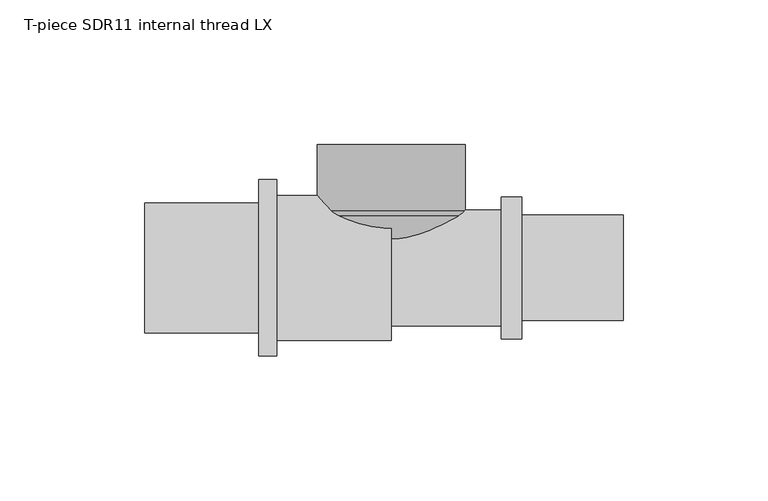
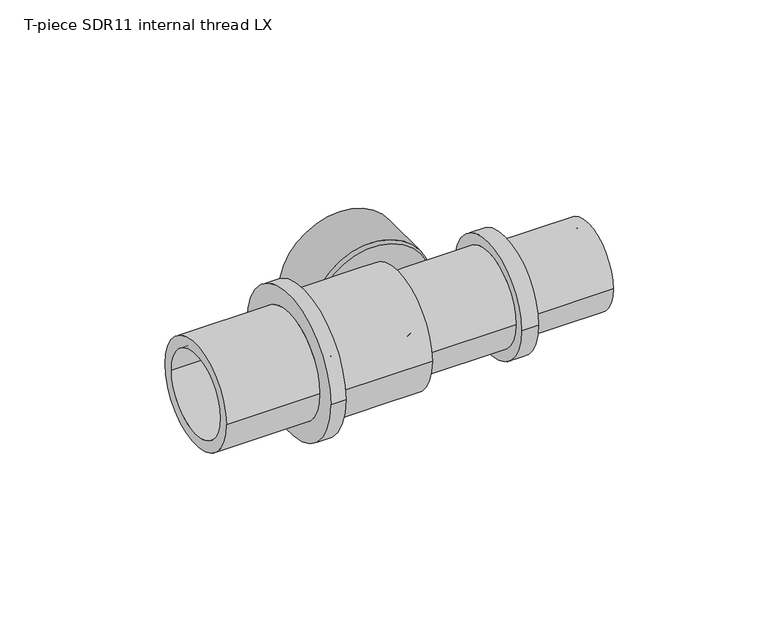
"""IFC4 building model written with IfcOpenShell, lengths in millimetres: pipe fitting geometry, T-piece SDR11 internal thread LX : T-piece LX SDR11 internal LX."""

from ifc_helpers import new_model, si_unit, point, frame, origin, place, context, project, spatial, polyline, circle_curve, ellipse_curve, trimmed, source, transform, mapped, element, save
from ifc_brep_helpers import plane_surface, cylinder_surface, revolved_surface, advanced_brep


def t_piece_sdr11_internal_thread_lx_c544266c(model_context):
    return source(origin(), model_context, "Body", "AdvancedBrep", [
        advanced_brep(
        [(19.95, 20.95, 0.0), (-19.95, 20.95, 0.0), (-19.95, 42.5, 0.0), (19.95, 42.5, 0.0), (0.5, 1.5, 0.0), (-0.5, 1.5, 0.0), (24.7683856, 17.9195003, 0.0), (-24.7683856, 17.9195003, 0.0), (-8.3488853, 1.5, 0.0), (8.3488853, 1.5, 0.0), (25.5, 19.6857737, 0.0), (-25.5, 19.6857737, 0.0), (25.5, 42.5, 0.0), (-25.5, 42.5, 0.0)],
        [
            (0, 1, circle_curve(frame((0.0, 20.95, 0.0), z_axis=(0.0, -1.0, 0.0), x_axis=(-1.0, 0.0, 0.0)), 19.95)),
            (1, 2),
            (2, 3, circle_curve(frame((0.0, 42.5, 0.0), z_axis=(0.0, 1.0, 0.0), x_axis=(-1.0, 0.0, 0.0)), 19.95)),
            (3, 0),
            (4, 5, circle_curve(frame((0.0, 1.5, 0.0), z_axis=(0.0, -1.0, 0.0), x_axis=(-1.0, 0.0, 0.0)), 0.5)),
            (5, 1),
            (0, 4),
            (6, 7, circle_curve(frame((0.0, 17.9195003, 0.0), z_axis=(0.0, -1.0, 0.0), x_axis=(-1.0, 0.0, 0.0)), 24.7683856)),
            (7, 8),
            (8, 9, circle_curve(frame((0.0, 1.5, 0.0), z_axis=(0.0, 1.0, 0.0), x_axis=(-1.0, 0.0, 0.0)), 8.3488853)),
            (9, 6),
            (10, 11, circle_curve(frame((0.0, 19.6857737, 0.0), z_axis=(0.0, -1.0, 0.0), x_axis=(-1.0, 0.0, 0.0)), 25.5)),
            (11, 7, circle_curve(frame((-19.95, 20.95, 0.0), z_axis=(0.0, 0.0, 1.0), x_axis=(0.0, 1.0, 0.0)), 5.6921673)),
            (6, 10, circle_curve(frame((19.95, 20.95, 0.0), z_axis=(0.0, 0.0, 1.0), x_axis=(0.0, 1.0, 0.0)), 5.6921673)),
            (12, 13, circle_curve(frame((0.0, 42.5, 0.0), z_axis=(0.0, -1.0, 0.0), x_axis=(-1.0, 0.0, 0.0)), 25.5)),
            (13, 11),
            (10, 12),
            (12, 13, circle_curve(frame((0.0, 42.5, 0.0), z_axis=(0.0, 1.0, 0.0), x_axis=(1.0, 0.0, 0.0)), 25.5)),
            (2, 3, circle_curve(frame((0.0, 42.5, 0.0), z_axis=(0.0, -1.0, 0.0), x_axis=(1.0, 0.0, 0.0)), 19.95)),
            (1, 0, circle_curve(frame((0.0, 20.95, 0.0), z_axis=(0.0, -1.0, 0.0), x_axis=(1.0, 0.0, 0.0)), 19.95)),
            (5, 4, circle_curve(frame((0.0, 1.5, 0.0), z_axis=(0.0, -1.0, 0.0), x_axis=(1.0, 0.0, 0.0)), 0.5)),
            (8, 9, circle_curve(frame((0.0, 1.5, 0.0), z_axis=(0.0, -1.0, 0.0), x_axis=(1.0, 0.0, 0.0)), 8.3488853)),
            (7, 6, circle_curve(frame((0.0, 17.9195003, 0.0), z_axis=(0.0, -1.0, 0.0), x_axis=(1.0, 0.0, 0.0)), 24.7683856)),
            (11, 10, circle_curve(frame((0.0, 19.6857737, 0.0), z_axis=(0.0, -1.0, 0.0), x_axis=(1.0, 0.0, 0.0)), 25.5)),
        ],
        [
            revolved_surface(polyline([(-19.95, 42.5, 0.0), (-19.95, 20.95, 0.0)]), (0.0, 1.5, 0.0), (0.0, 1.0, 0.0)),
            revolved_surface(polyline([(-19.95, 20.95, 0.0), (-0.5, 1.5, 0.0)]), (0.0, 1.5, 0.0), (0.0, 1.0, 0.0)),
            revolved_surface(polyline([(-8.3488853, 1.5, 0.0), (-24.7683856, 17.9195003, 0.0)]), (0.0, 1.5, 0.0), (0.0, 1.0, 0.0)),
            revolved_surface(trimmed(ellipse_curve(frame((-19.95, 20.95, 0.0), z_axis=(0.0, 0.0, -1.0), x_axis=(0.0, 1.0, 0.0)), 5.6921673, 5.6921673), [point((-24.7683856, 17.9195003, 0.0))], [point((-25.5, 19.6857737, 0.0))], True, "CARTESIAN"), (0.0, 1.5, 0.0), (0.0, 1.0, 0.0)),
            cylinder_surface(frame((0.0, 1.5, 0.0), z_axis=(0.0, 1.0, 0.0), x_axis=(-1.0, 0.0, 0.0)), 25.5),
            plane_surface(frame((0.0, 42.5, 0.0), z_axis=(0.0, 1.0, 0.0), x_axis=(1.0, 0.0, 0.0))),
            revolved_surface(polyline([(19.95, 42.5, 0.0), (19.95, 20.95, 0.0)]), (0.0, 1.5, 0.0), (0.0, 1.0, 0.0)),
            revolved_surface(polyline([(19.95, 20.95, 0.0), (0.5, 1.5, 0.0)]), (0.0, 1.5, 0.0), (0.0, 1.0, 0.0)),
            plane_surface(frame((0.0, 1.5, 0.0), z_axis=(0.0, -1.0, 0.0), x_axis=(1.0, 0.0, 0.0))),
            revolved_surface(polyline([(8.3488853, 1.5, 0.0), (24.7683856, 17.9195003, 0.0)]), (0.0, 1.5, 0.0), (0.0, 1.0, 0.0)),
            revolved_surface(trimmed(ellipse_curve(frame((19.95, 20.95, 0.0), z_axis=(0.0, 0.0, 1.0), x_axis=(0.0, 1.0, 0.0)), 5.6921673, 5.6921673), [point((24.7683856, 17.9195003, 0.0))], [point((25.5, 19.6857737, 0.0))], True, "CARTESIAN"), (0.0, 1.5, 0.0), (0.0, 1.0, 0.0)),
            cylinder_surface(frame((0.0, 1.5, 0.0), z_axis=(0.0, 1.0, 0.0), x_axis=(1.0, 0.0, 0.0)), 25.5),
        ],
        [
            (0, [[1, 2, 3, 4]]),
            (1, [[5, 6, -1, 7]]),
            (2, [[8, 9, 10, 11]]),
            (3, [[12, 13, -8, 14]]),
            (4, [[15, 16, -12, 17]]),
            (5, [[18, -15], [19, -3]]),
            (6, [[20, -4, -19, -2]]),
            (7, [[21, -7, -20, -6]]),
            (8, [[22, -10], [-21, -5]]),
            (9, [[23, -11, -22, -9]]),
            (10, [[24, -14, -23, -13]]),
            (11, [[-18, -17, -24, -16]]),
        ],
    ),
        advanced_brep(
        [(45.0, 24.5, 0.0), (45.0, -24.5, 0.0), (38.0, -24.5, 0.0), (38.0, 24.5, 0.0), (80.0, 18.2, 0.0), (80.0, -18.2, 0.0), (45.0, -18.2, 0.0), (45.0, 18.2, 0.0), (0.0, 13.6, 0.0), (0.0, -13.6, 0.0), (80.0, -13.6, 0.0), (80.0, 13.6, 0.0), (38.0, 20.0, 0.0), (38.0, -20.0, 0.0), (0.0, -20.0, 0.0), (0.0, 20.0, 0.0)],
        [
            (0, 1, circle_curve(frame((45.0, 0.0, 0.0), z_axis=(-1.0, 0.0, 0.0), x_axis=(0.0, -1.0, 0.0)), 24.5)),
            (1, 2),
            (2, 3, circle_curve(frame((38.0, 0.0, 0.0), z_axis=(1.0, 0.0, 0.0), x_axis=(0.0, -1.0, 0.0)), 24.5)),
            (3, 0),
            (4, 5, circle_curve(frame((80.0, 0.0, 0.0), z_axis=(-1.0, 0.0, 0.0), x_axis=(0.0, -1.0, 0.0)), 18.2)),
            (5, 6),
            (6, 7, circle_curve(frame((45.0, 0.0, 0.0), z_axis=(1.0, 0.0, 0.0), x_axis=(0.0, -1.0, 0.0)), 18.2)),
            (7, 4),
            (8, 9, circle_curve(frame((0.0, 0.0, 0.0), z_axis=(-1.0, 0.0, 0.0), x_axis=(0.0, -1.0, 0.0)), 13.6)),
            (9, 10),
            (10, 11, circle_curve(frame((80.0, 0.0, 0.0), z_axis=(1.0, 0.0, 0.0), x_axis=(0.0, -1.0, 0.0)), 13.6)),
            (11, 8),
            (12, 13, circle_curve(frame((38.0, 0.0, 0.0), z_axis=(-1.0, 0.0, 0.0), x_axis=(0.0, -1.0, 0.0)), 20.0)),
            (13, 14),
            (14, 15, circle_curve(frame((0.0, 0.0, 0.0), z_axis=(1.0, 0.0, 0.0), x_axis=(0.0, -1.0, 0.0)), 20.0)),
            (15, 12),
            (1, 0, circle_curve(frame((45.0, 0.0, 0.0), z_axis=(-1.0, 0.0, 0.0), x_axis=(0.0, 1.0, 0.0)), 24.5)),
            (3, 2, circle_curve(frame((38.0, 0.0, 0.0), z_axis=(1.0, 0.0, 0.0), x_axis=(0.0, 1.0, 0.0)), 24.5)),
            (6, 7, circle_curve(frame((45.0, 0.0, 0.0), z_axis=(-1.0, 0.0, 0.0), x_axis=(0.0, 1.0, 0.0)), 18.2)),
            (5, 4, circle_curve(frame((80.0, 0.0, 0.0), z_axis=(-1.0, 0.0, 0.0), x_axis=(0.0, 1.0, 0.0)), 18.2)),
            (10, 11, circle_curve(frame((80.0, 0.0, 0.0), z_axis=(-1.0, 0.0, 0.0), x_axis=(0.0, 1.0, 0.0)), 13.6)),
            (9, 8, circle_curve(frame((0.0, 0.0, 0.0), z_axis=(-1.0, 0.0, 0.0), x_axis=(0.0, 1.0, 0.0)), 13.6)),
            (14, 15, circle_curve(frame((0.0, 0.0, 0.0), z_axis=(-1.0, 0.0, 0.0), x_axis=(0.0, 1.0, 0.0)), 20.0)),
            (13, 12, circle_curve(frame((38.0, 0.0, 0.0), z_axis=(-1.0, 0.0, 0.0), x_axis=(0.0, 1.0, 0.0)), 20.0)),
        ],
        [
            cylinder_surface(frame((0.0, 0.0, 0.0), z_axis=(1.0, 0.0, 0.0), x_axis=(0.0, -1.0, 0.0)), 24.5),
            cylinder_surface(frame((0.0, 0.0, 0.0), z_axis=(1.0, 0.0, 0.0), x_axis=(0.0, -1.0, 0.0)), 18.2),
            revolved_surface(polyline([(80.0, -13.6, 0.0), (0.0, -13.6, 0.0)]), (0.0, 0.0, 0.0), (1.0, 0.0, 0.0)),
            cylinder_surface(frame((0.0, 0.0, 0.0), z_axis=(1.0, 0.0, 0.0), x_axis=(0.0, -1.0, 0.0)), 20.0),
            cylinder_surface(frame((0.0, 0.0, 0.0), z_axis=(1.0, 0.0, 0.0), x_axis=(0.0, 1.0, 0.0)), 24.5),
            plane_surface(frame((45.0, 0.0, 0.0), z_axis=(1.0, 0.0, 0.0), x_axis=(0.0, 1.0, 0.0))),
            cylinder_surface(frame((0.0, 0.0, 0.0), z_axis=(1.0, 0.0, 0.0), x_axis=(0.0, 1.0, 0.0)), 18.2),
            plane_surface(frame((80.0, 0.0, 0.0), z_axis=(1.0, 0.0, 0.0), x_axis=(0.0, 1.0, 0.0))),
            revolved_surface(polyline([(80.0, 13.6, 0.0), (0.0, 13.6, 0.0)]), (0.0, 0.0, 0.0), (1.0, 0.0, 0.0)),
            plane_surface(frame((0.0, 0.0, 0.0), z_axis=(-1.0, 0.0, 0.0), x_axis=(0.0, 1.0, 0.0))),
            cylinder_surface(frame((0.0, 0.0, 0.0), z_axis=(1.0, 0.0, 0.0), x_axis=(0.0, 1.0, 0.0)), 20.0),
            plane_surface(frame((38.0, 0.0, 0.0), z_axis=(-1.0, 0.0, 0.0), x_axis=(0.0, 1.0, 0.0))),
        ],
        [
            (0, [[1, 2, 3, 4]]),
            (1, [[5, 6, 7, 8]]),
            (2, [[9, 10, 11, 12]]),
            (3, [[13, 14, 15, 16]]),
            (4, [[17, -4, 18, -2]]),
            (5, [[-17, -1], [19, -7]]),
            (6, [[20, -8, -19, -6]]),
            (7, [[-20, -5], [21, -11]]),
            (8, [[22, -12, -21, -10]]),
            (9, [[23, -15], [-22, -9]]),
            (10, [[24, -16, -23, -14]]),
            (11, [[-18, -3], [-24, -13]]),
        ],
    ),
        advanced_brep(
        [(0.0, 25.0, 0.0), (0.0, -25.0, 0.0), (-39.5, -25.0, 0.0), (-39.5, 25.0, 0.0), (-85.0, 17.7, 0.0), (-85.0, -17.7, 0.0), (0.0, -17.7, 0.0), (0.0, 17.7, 0.0), (-45.8, 22.4, 0.0), (-45.8, -22.4, 0.0), (-85.0, -22.4, 0.0), (-85.0, 22.4, 0.0), (-39.5, 30.5, 0.0), (-39.5, -30.5, 0.0), (-45.8, -30.5, 0.0), (-45.8, 30.5, 0.0)],
        [
            (0, 1, circle_curve(frame((0.0, 0.0, 0.0), z_axis=(-1.0, 0.0, 0.0), x_axis=(0.0, -1.0, 0.0)), 25.0)),
            (1, 2),
            (2, 3, circle_curve(frame((-39.5, 0.0, 0.0), z_axis=(1.0, 0.0, 0.0), x_axis=(0.0, -1.0, 0.0)), 25.0)),
            (3, 0),
            (4, 5, circle_curve(frame((-85.0, 0.0, 0.0), z_axis=(-1.0, 0.0, 0.0), x_axis=(0.0, -1.0, 0.0)), 17.7)),
            (5, 6),
            (6, 7, circle_curve(frame((0.0, 0.0, 0.0), z_axis=(1.0, 0.0, 0.0), x_axis=(0.0, -1.0, 0.0)), 17.7)),
            (7, 4),
            (8, 9, circle_curve(frame((-45.8, 0.0, 0.0), z_axis=(-1.0, 0.0, 0.0), x_axis=(0.0, -1.0, 0.0)), 22.4)),
            (9, 10),
            (10, 11, circle_curve(frame((-85.0, 0.0, 0.0), z_axis=(1.0, 0.0, 0.0), x_axis=(0.0, -1.0, 0.0)), 22.4)),
            (11, 8),
            (12, 13, circle_curve(frame((-39.5, 0.0, 0.0), z_axis=(-1.0, 0.0, 0.0), x_axis=(0.0, -1.0, 0.0)), 30.5)),
            (13, 14),
            (14, 15, circle_curve(frame((-45.8, 0.0, 0.0), z_axis=(1.0, 0.0, 0.0), x_axis=(0.0, -1.0, 0.0)), 30.5)),
            (15, 12),
            (12, 13, circle_curve(frame((-39.5, 0.0, 0.0), z_axis=(1.0, 0.0, 0.0), x_axis=(0.0, 1.0, 0.0)), 30.5)),
            (2, 3, circle_curve(frame((-39.5, 0.0, 0.0), z_axis=(-1.0, 0.0, 0.0), x_axis=(0.0, 1.0, 0.0)), 25.0)),
            (1, 0, circle_curve(frame((0.0, 0.0, 0.0), z_axis=(-1.0, 0.0, 0.0), x_axis=(0.0, 1.0, 0.0)), 25.0)),
            (6, 7, circle_curve(frame((0.0, 0.0, 0.0), z_axis=(-1.0, 0.0, 0.0), x_axis=(0.0, 1.0, 0.0)), 17.7)),
            (5, 4, circle_curve(frame((-85.0, 0.0, 0.0), z_axis=(-1.0, 0.0, 0.0), x_axis=(0.0, 1.0, 0.0)), 17.7)),
            (10, 11, circle_curve(frame((-85.0, 0.0, 0.0), z_axis=(-1.0, 0.0, 0.0), x_axis=(0.0, 1.0, 0.0)), 22.4)),
            (9, 8, circle_curve(frame((-45.8, 0.0, 0.0), z_axis=(-1.0, 0.0, 0.0), x_axis=(0.0, 1.0, 0.0)), 22.4)),
            (14, 15, circle_curve(frame((-45.8, 0.0, 0.0), z_axis=(-1.0, 0.0, 0.0), x_axis=(0.0, 1.0, 0.0)), 30.5)),
        ],
        [
            cylinder_surface(frame((0.0, 0.0, 0.0), z_axis=(1.0, 0.0, 0.0), x_axis=(0.0, -1.0, 0.0)), 25.0),
            revolved_surface(polyline([(0.0, -17.7, 0.0), (-85.0, -17.7, 0.0)]), (0.0, 0.0, 0.0), (1.0, 0.0, 0.0)),
            cylinder_surface(frame((0.0, 0.0, 0.0), z_axis=(1.0, 0.0, 0.0), x_axis=(0.0, -1.0, 0.0)), 22.4),
            cylinder_surface(frame((0.0, 0.0, 0.0), z_axis=(1.0, 0.0, 0.0), x_axis=(0.0, -1.0, 0.0)), 30.5),
            plane_surface(frame((-39.5, 0.0, 0.0), z_axis=(1.0, 0.0, 0.0), x_axis=(0.0, 1.0, 0.0))),
            cylinder_surface(frame((0.0, 0.0, 0.0), z_axis=(1.0, 0.0, 0.0), x_axis=(0.0, 1.0, 0.0)), 25.0),
            plane_surface(frame((0.0, 0.0, 0.0), z_axis=(1.0, 0.0, 0.0), x_axis=(0.0, 1.0, 0.0))),
            revolved_surface(polyline([(0.0, 17.7, 0.0), (-85.0, 17.7, 0.0)]), (0.0, 0.0, 0.0), (1.0, 0.0, 0.0)),
            plane_surface(frame((-85.0, 0.0, 0.0), z_axis=(-1.0, 0.0, 0.0), x_axis=(0.0, 1.0, 0.0))),
            cylinder_surface(frame((0.0, 0.0, 0.0), z_axis=(1.0, 0.0, 0.0), x_axis=(0.0, 1.0, 0.0)), 22.4),
            plane_surface(frame((-45.8, 0.0, 0.0), z_axis=(-1.0, 0.0, 0.0), x_axis=(0.0, 1.0, 0.0))),
            cylinder_surface(frame((0.0, 0.0, 0.0), z_axis=(1.0, 0.0, 0.0), x_axis=(0.0, 1.0, 0.0)), 30.5),
        ],
        [
            (0, [[1, 2, 3, 4]]),
            (1, [[5, 6, 7, 8]]),
            (2, [[9, 10, 11, 12]]),
            (3, [[13, 14, 15, 16]]),
            (4, [[17, -13], [18, -3]]),
            (5, [[19, -4, -18, -2]]),
            (6, [[-19, -1], [20, -7]]),
            (7, [[21, -8, -20, -6]]),
            (8, [[22, -11], [-21, -5]]),
            (9, [[23, -12, -22, -10]]),
            (10, [[24, -15], [-23, -9]]),
            (11, [[-17, -16, -24, -14]]),
        ],
    ),
    ])


if __name__ == "__main__":
    model = new_model("IFC4")
    model_context = context("Model", 3, world=origin())
    ifc_project = project(units=[si_unit("LENGTHUNIT", "METRE", prefix="MILLI")], contexts=[model_context])
    site = spatial("IfcSite", under=ifc_project)
    building = spatial("IfcBuilding", under=site)
    placement = place(None, origin())
    t_piece_sdr11_internal_thread_lx_shape = t_piece_sdr11_internal_thread_lx_c544266c(model_context)
    element("IfcPipeFitting", 1, ObjectType="T-piece SDR11 internal thread LX : T-piece LX SDR11 internal LX", at=placement, inside=building, context=model_context, shape_type="MappedRepresentation", body=[
        mapped(t_piece_sdr11_internal_thread_lx_shape, transform((0.0, 0.0, 0.0), x_axis=(1.0, 0.0, 0.0), y_axis=(0.0, 1.0, 0.0), z_axis=(0.0, 0.0, 1.0))),
    ])
    save(model, "model.ifc")
